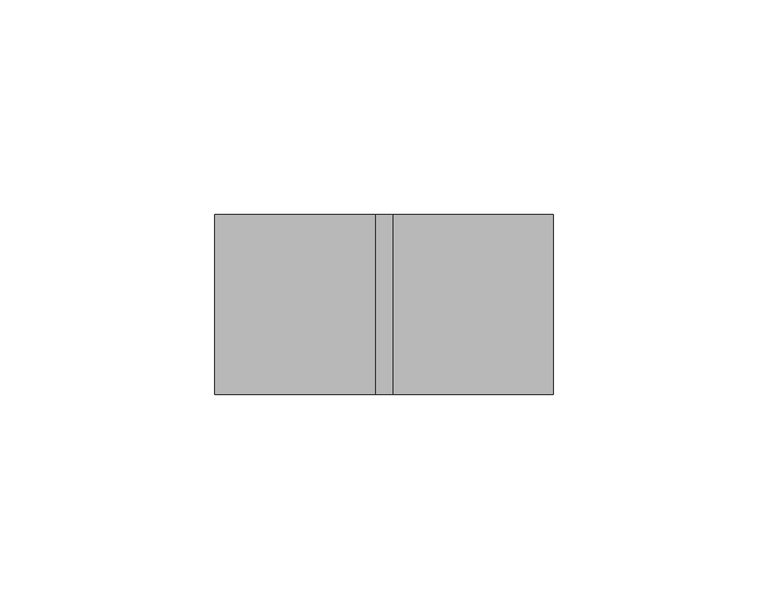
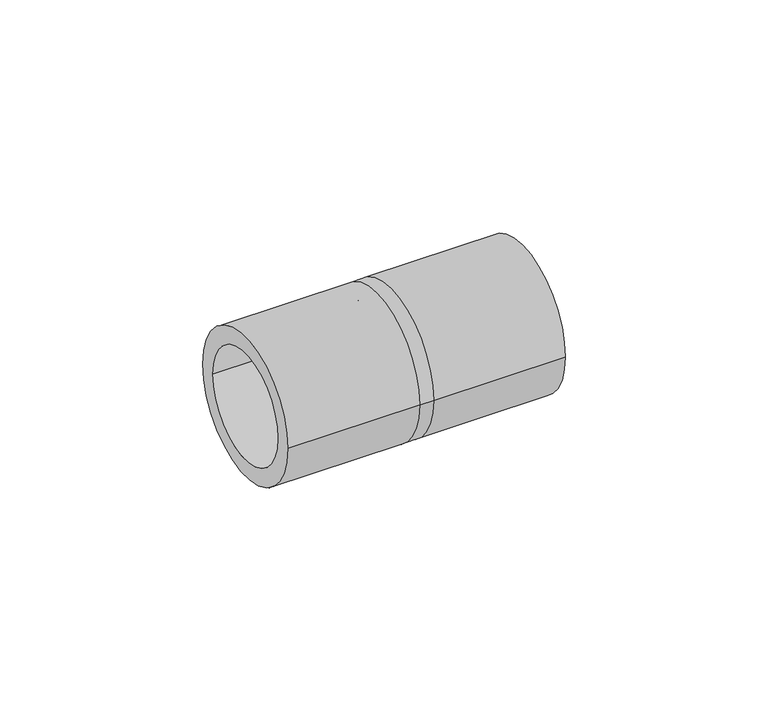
"""IFC4 building model written with IfcOpenShell, lengths in millimetres: cable carrier fitting geometry."""

from ifc_helpers import new_model, si_unit, frame, origin, place, context, project, spatial, polyline, circle_curve, source, transform, mapped, element, save
from ifc_brep_helpers import plane_surface, cylinder_surface, revolved_surface, advanced_brep


def cable_carrier_fitting_de7adbcc(model_context):
    return source(origin(), model_context, "Body", "AdvancedBrep", [
        advanced_brep(
        [(-39.5, -21.0, 0.0), (-39.5, 21.0, 0.0), (-39.5, -16.0, 0.0), (-39.5, 16.0, 0.0), (-2.0, 16.0, 0.0), (-2.0, -16.0, 0.0), (-2.0, 21.0, 0.0), (-2.0, -21.0, 0.0), (2.0, -16.0, 0.0), (2.0, 16.0, 0.0), (2.0, -21.0, 0.0), (2.0, 21.0, 0.0), (39.5, -21.0, 0.0), (39.5, 21.0, 0.0), (39.5, -16.0, 0.0), (39.5, 16.0, 0.0)],
        [
            (0, 1, circle_curve(frame((-39.5, 0.0, 0.0), z_axis=(-1.0, 0.0, 0.0), x_axis=(0.0, 1.0, 0.0)), 21.0)),
            (1, 0, circle_curve(frame((-39.5, 0.0, 0.0), z_axis=(-1.0, 0.0, 0.0), x_axis=(0.0, 1.0, 0.0)), 21.0)),
            (2, 3, circle_curve(frame((-39.5, 0.0, 0.0), z_axis=(1.0, 0.0, 0.0), x_axis=(0.0, 1.0, 0.0)), 16.0)),
            (3, 2, circle_curve(frame((-39.5, 0.0, 0.0), z_axis=(1.0, 0.0, 0.0), x_axis=(0.0, 1.0, 0.0)), 16.0)),
            (3, 4),
            (4, 5, circle_curve(frame((-2.0, 0.0, 0.0), z_axis=(1.0, 0.0, 0.0), x_axis=(0.0, 1.0, 0.0)), 16.0)),
            (5, 2),
            (5, 4, circle_curve(frame((-2.0, 0.0, 0.0), z_axis=(1.0, 0.0, 0.0), x_axis=(0.0, 1.0, 0.0)), 16.0)),
            (1, 6),
            (6, 7, circle_curve(frame((-2.0, 0.0, 0.0), z_axis=(-1.0, 0.0, 0.0), x_axis=(0.0, 1.0, 0.0)), 21.0)),
            (7, 0),
            (7, 6, circle_curve(frame((-2.0, 0.0, 0.0), z_axis=(-1.0, 0.0, 0.0), x_axis=(0.0, 1.0, 0.0)), 21.0)),
            (5, 8),
            (8, 9, circle_curve(frame((2.0, 0.0, 0.0), z_axis=(1.0, 0.0, 0.0), x_axis=(0.0, 1.0, 0.0)), 16.0)),
            (9, 4),
            (9, 8, circle_curve(frame((2.0, 0.0, 0.0), z_axis=(1.0, 0.0, 0.0), x_axis=(0.0, 1.0, 0.0)), 16.0)),
            (7, 10),
            (10, 11, circle_curve(frame((2.0, 0.0, 0.0), z_axis=(-1.0, 0.0, 0.0), x_axis=(0.0, 1.0, 0.0)), 21.0)),
            (11, 6),
            (11, 10, circle_curve(frame((2.0, 0.0, 0.0), z_axis=(-1.0, 0.0, 0.0), x_axis=(0.0, 1.0, 0.0)), 21.0)),
            (12, 13, circle_curve(frame((39.5, 0.0, 0.0), z_axis=(1.0, 0.0, 0.0), x_axis=(0.0, 1.0, 0.0)), 21.0)),
            (13, 12, circle_curve(frame((39.5, 0.0, 0.0), z_axis=(1.0, 0.0, 0.0), x_axis=(0.0, 1.0, 0.0)), 21.0)),
            (14, 15, circle_curve(frame((39.5, 0.0, 0.0), z_axis=(-1.0, 0.0, 0.0), x_axis=(0.0, 1.0, 0.0)), 16.0)),
            (15, 14, circle_curve(frame((39.5, 0.0, 0.0), z_axis=(-1.0, 0.0, 0.0), x_axis=(0.0, 1.0, 0.0)), 16.0)),
            (13, 11),
            (10, 12),
            (15, 9),
            (8, 14),
        ],
        [
            plane_surface(frame((-39.5, 0.0, 0.0), z_axis=(-1.0, 0.0, 0.0), x_axis=(0.0, 0.0, 1.0))),
            revolved_surface(polyline([(-2.0, 16.0, 0.0), (-39.5, 16.0, 0.0)]), (-39.5, 0.0, 0.0), (1.0, 0.0, 0.0)),
            cylinder_surface(frame((-39.5, 0.0, 0.0), z_axis=(-1.0, 0.0, 0.0), x_axis=(0.0, 1.0, 0.0)), 21.0),
            revolved_surface(polyline([(2.0, 16.0, 0.0), (-2.0, 16.0, 0.0)]), (-2.0, 0.0, 0.0), (1.0, 0.0, 0.0)),
            cylinder_surface(frame((-2.0, 0.0, 0.0), z_axis=(-1.0, 0.0, 0.0), x_axis=(0.0, 1.0, 0.0)), 21.0),
            plane_surface(frame((39.5, 0.0, 0.0), z_axis=(1.0, 0.0, 0.0), x_axis=(0.0, 0.0, 1.0))),
            cylinder_surface(frame((2.0, 0.0, 0.0), z_axis=(-1.0, 0.0, 0.0), x_axis=(0.0, 1.0, 0.0)), 21.0),
            revolved_surface(polyline([(39.5, 16.0, 0.0), (2.0, 16.0, 0.0)]), (2.0, 0.0, 0.0), (1.0, 0.0, 0.0)),
        ],
        [
            (0, [[1, 2], [3, 4]]),
            (1, [[-4, 5, 6, 7]]),
            (1, [[-3, -7, 8, -5]]),
            (2, [[-2, 9, 10, 11]]),
            (2, [[-1, -11, 12, -9]]),
            (3, [[13, 14, 15, -8]]),
            (3, [[-13, -6, -15, 16]]),
            (4, [[17, 18, 19, -12]]),
            (4, [[-17, -10, -19, 20]]),
            (5, [[21, 22], [23, 24]]),
            (6, [[-22, 25, -18, 26]]),
            (6, [[-21, -26, -20, -25]]),
            (7, [[-24, 27, -14, 28]]),
            (7, [[-23, -28, -16, -27]]),
        ],
    ),
    ])


if __name__ == "__main__":
    model = new_model("IFC4")
    model_context = context("Model", 3, world=origin())
    ifc_project = project(units=[si_unit("LENGTHUNIT", "METRE", prefix="MILLI")], contexts=[model_context])
    site = spatial("IfcSite", under=ifc_project)
    building = spatial("IfcBuilding", under=site)
    placement = place(None, origin())
    cable_carrier_fitting_shape = cable_carrier_fitting_de7adbcc(model_context)
    element("IfcCableCarrierFitting", 1, at=placement, inside=building, context=model_context, shape_type="MappedRepresentation", body=[
        mapped(cable_carrier_fitting_shape, transform((0.0, 0.0, 0.0), x_axis=(1.0, 0.0, 0.0), y_axis=(0.0, 1.0, 0.0), z_axis=(0.0, 0.0, 1.0))),
    ])
    save(model, "model.ifc")
